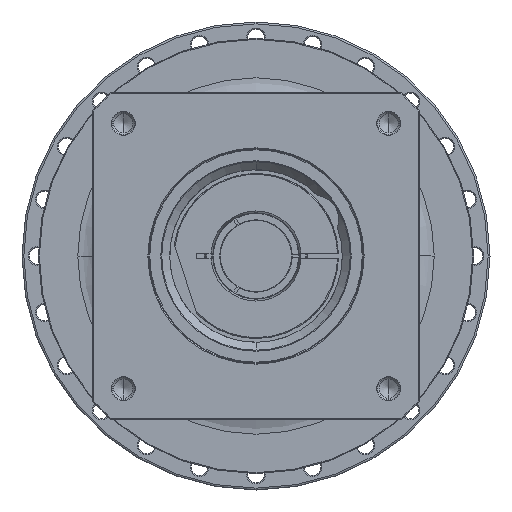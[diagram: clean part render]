
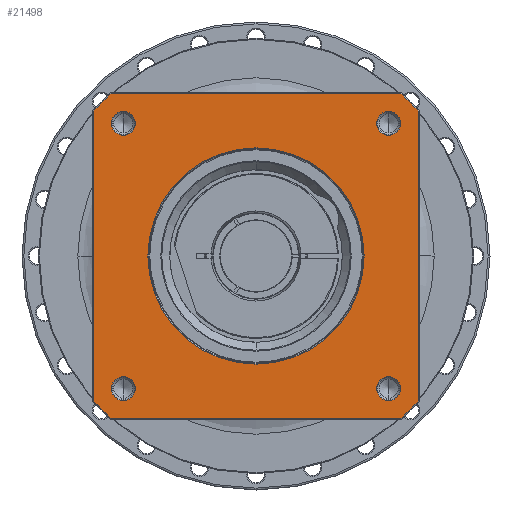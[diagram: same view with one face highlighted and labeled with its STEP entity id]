
A CAD part, left-side view. The second image highlights one B-rep face of the part: STEP entity #21498.
In plain terms, the highlighted planar face has unit normal (-1, 0, 0) as drawn and (0, 0, 1) by its records, which use the part's own axes.
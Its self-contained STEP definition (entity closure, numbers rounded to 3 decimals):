
#20249=CARTESIAN_POINT('',(0.,0.,
76.));
#20250=DIRECTION('',(0.,0.,-1.));
#20251=DIRECTION('',(0.,-1.,0.));
#20252=AXIS2_PLACEMENT_3D('',#20249,#20250,#20251);
#20254=CARTESIAN_POINT('',(0.,0.,
76.));
#20255=DIRECTION('',(0.,0.,-1.));
#20256=DIRECTION('',(0.,1.,0.));
#20257=AXIS2_PLACEMENT_3D('',#20254,#20255,#20256);
#20259=CARTESIAN_POINT('',(0.,0.,76.));
#20260=DIRECTION('',(0.,0.,1.));
#20261=DIRECTION('',(-0.746,-0.666,0.));
#20262=AXIS2_PLACEMENT_3D('',#20259,#20260,#20261);
#20274=DIRECTION('',(1.,0.,0.));
#20275=VECTOR('',#20274,154.58);
#20276=CARTESIAN_POINT('',(-77.29,-86.5,76.));
#20277=LINE('',#20276,#20275);
#20287=CARTESIAN_POINT('',(0.,0.,76.));
#20288=DIRECTION('',(0.,0.,1.));
#20289=DIRECTION('',(0.666,-0.746,0.));
#20290=AXIS2_PLACEMENT_3D('',#20287,#20288,#20289);
#20302=DIRECTION('',(0.,1.,0.));
#20303=VECTOR('',#20302,154.58);
#20304=CARTESIAN_POINT('',(86.5,-77.29,76.));
#20305=LINE('',#20304,#20303);
#20315=CARTESIAN_POINT('',(0.,0.,76.));
#20316=DIRECTION('',(0.,0.,1.));
#20317=DIRECTION('',(0.746,0.666,0.));
#20318=AXIS2_PLACEMENT_3D('',#20315,#20316,#20317);
#20330=DIRECTION('',(-1.,0.,0.));
#20331=VECTOR('',#20330,154.58);
#20332=CARTESIAN_POINT('',(77.29,86.5,76.));
#20333=LINE('',#20332,#20331);
#20338=CARTESIAN_POINT('',(0.,0.,76.));
#20339=DIRECTION('',(0.,0.,1.));
#20340=DIRECTION('',(-0.666,0.746,0.));
#20341=AXIS2_PLACEMENT_3D('',#20338,#20339,#20340);
#20358=DIRECTION('',(0.,-1.,0.));
#20359=VECTOR('',#20358,154.58);
#20360=CARTESIAN_POINT('',(-86.5,77.29,76.));
#20361=LINE('',#20360,#20359);
#20444=CARTESIAN_POINT('',(-70.711,70.711,76.));
#20445=DIRECTION('',(0.,0.,1.));
#20446=DIRECTION('',(-1.,0.,0.));
#20447=AXIS2_PLACEMENT_3D('',#20444,#20445,#20446);
#20462=CARTESIAN_POINT('',(-70.711,70.711,76.));
#20463=DIRECTION('',(0.,0.,1.));
#20464=DIRECTION('',(1.,0.,0.));
#20465=AXIS2_PLACEMENT_3D('',#20462,#20463,#20464);
#20498=CARTESIAN_POINT('',(70.711,70.711,76.));
#20499=DIRECTION('',(0.,0.,1.));
#20500=DIRECTION('',(-1.,0.,0.));
#20501=AXIS2_PLACEMENT_3D('',#20498,#20499,#20500);
#20516=CARTESIAN_POINT('',(70.711,70.711,76.));
#20517=DIRECTION('',(0.,0.,1.));
#20518=DIRECTION('',(1.,0.,0.));
#20519=AXIS2_PLACEMENT_3D('',#20516,#20517,#20518);
#20552=CARTESIAN_POINT('',(70.711,-70.711,76.));
#20553=DIRECTION('',(0.,0.,1.));
#20554=DIRECTION('',(-1.,0.,0.));
#20555=AXIS2_PLACEMENT_3D('',#20552,#20553,#20554);
#20570=CARTESIAN_POINT('',(70.711,-70.711,76.));
#20571=DIRECTION('',(0.,0.,1.));
#20572=DIRECTION('',(1.,0.,0.));
#20573=AXIS2_PLACEMENT_3D('',#20570,#20571,#20572);
#20606=CARTESIAN_POINT('',(-70.711,-70.711,76.));
#20607=DIRECTION('',(0.,0.,1.));
#20608=DIRECTION('',(-1.,0.,0.));
#20609=AXIS2_PLACEMENT_3D('',#20606,#20607,#20608);
#20624=CARTESIAN_POINT('',(-70.711,-70.711,76.));
#20625=DIRECTION('',(0.,0.,1.));
#20626=DIRECTION('',(1.,0.,0.));
#20627=AXIS2_PLACEMENT_3D('',#20624,#20625,#20626);
#20756=CARTESIAN_POINT('',(86.5,-77.29,76.));
#20757=CARTESIAN_POINT('',(86.5,77.29,76.));
#20758=VERTEX_POINT('',#20756);
#20759=VERTEX_POINT('',#20757);
#20764=CARTESIAN_POINT('',(77.29,-86.5,76.));
#20765=VERTEX_POINT('',#20764);
#20768=CARTESIAN_POINT('',(-77.29,-86.5,76.));
#20769=VERTEX_POINT('',#20768);
#20772=CARTESIAN_POINT('',(-86.5,-77.29,76.));
#20773=VERTEX_POINT('',#20772);
#20776=CARTESIAN_POINT('',(-86.5,77.29,76.));
#20777=VERTEX_POINT('',#20776);
#20780=CARTESIAN_POINT('',(-77.29,86.5,76.));
#20781=VERTEX_POINT('',#20780);
#20784=CARTESIAN_POINT('',(77.29,86.5,76.));
#20785=VERTEX_POINT('',#20784);
#20794=CARTESIAN_POINT('',(-77.111,70.711,76.));
#20795=CARTESIAN_POINT('',(-64.311,70.711,76.));
#20796=VERTEX_POINT('',#20794);
#20797=VERTEX_POINT('',#20795);
#20820=CARTESIAN_POINT('',(77.111,70.711,76.));
#20821=CARTESIAN_POINT('',(64.311,70.711,76.));
#20822=VERTEX_POINT('',#20820);
#20823=VERTEX_POINT('',#20821);
#20828=CARTESIAN_POINT('',(77.111,-70.711,76.));
#20829=CARTESIAN_POINT('',(64.311,-70.711,76.));
#20830=VERTEX_POINT('',#20828);
#20831=VERTEX_POINT('',#20829);
#20836=CARTESIAN_POINT('',(-64.311,-70.711,76.));
#20837=CARTESIAN_POINT('',(-77.111,-70.711,76.));
#20838=VERTEX_POINT('',#20836);
#20839=VERTEX_POINT('',#20837);
#20844=CARTESIAN_POINT('',(0.,-57.65,76.));
#20845=CARTESIAN_POINT('',(0.,57.65,
76.));
#20846=VERTEX_POINT('',#20844);
#20847=VERTEX_POINT('',#20845);
#21446=CARTESIAN_POINT('',(0.,0.,76.));
#21447=DIRECTION('',(0.,0.,1.));
#21448=DIRECTION('',(1.,0.,0.));
#21449=AXIS2_PLACEMENT_3D('',#21446,#21447,#21448);
#21450=PLANE('',#21449);
#21452=ORIENTED_EDGE('',*,*,#21451,.F.);
#21454=ORIENTED_EDGE('',*,*,#21453,.F.);
#21456=ORIENTED_EDGE('',*,*,#21455,.F.);
#21458=ORIENTED_EDGE('',*,*,#21457,.F.);
#21460=ORIENTED_EDGE('',*,*,#21459,.F.);
#21462=ORIENTED_EDGE('',*,*,#21461,.F.);
#21464=ORIENTED_EDGE('',*,*,#21463,.F.);
#21466=ORIENTED_EDGE('',*,*,#21465,.F.);
#21467=EDGE_LOOP('',(#21452,#21454,#21456,#21458,#21460,#21462,#21464,#21466));
#21468=FACE_OUTER_BOUND('',#21467,.F.);
#21469=ORIENTED_EDGE('',*,*,#21436,.F.);
#21471=ORIENTED_EDGE('',*,*,#21470,.F.);
#21472=EDGE_LOOP('',(#21469,#21471));
#21473=FACE_BOUND('',#21472,.F.);
#21475=ORIENTED_EDGE('',*,*,#21474,.T.);
#21477=ORIENTED_EDGE('',*,*,#21476,.T.);
#21478=EDGE_LOOP('',(#21475,#21477));
#21479=FACE_BOUND('',#21478,.F.);
#21481=ORIENTED_EDGE('',*,*,#21480,.T.);
#21483=ORIENTED_EDGE('',*,*,#21482,.T.);
#21484=EDGE_LOOP('',(#21481,#21483));
#21485=FACE_BOUND('',#21484,.F.);
#21487=ORIENTED_EDGE('',*,*,#21486,.T.);
#21489=ORIENTED_EDGE('',*,*,#21488,.T.);
#21490=EDGE_LOOP('',(#21487,#21489));
#21491=FACE_BOUND('',#21490,.F.);
#21493=ORIENTED_EDGE('',*,*,#21492,.T.);
#21495=ORIENTED_EDGE('',*,*,#21494,.T.);
#21496=EDGE_LOOP('',(#21493,#21495));
#21497=FACE_BOUND('',#21496,.F.);
#21498=ADVANCED_FACE('',(#21468,#21473,#21479,#21485,#21491,#21497),#21450,.T.);
#20253=CIRCLE('',#20252,57.65);
#20258=CIRCLE('',#20257,57.65);
#20263=CIRCLE('',#20262,116.);
#20291=CIRCLE('',#20290,116.);
#20319=CIRCLE('',#20318,116.);
#20342=CIRCLE('',#20341,116.);
#20448=CIRCLE('',#20447,6.4);
#20466=CIRCLE('',#20465,6.4);
#20502=CIRCLE('',#20501,6.4);
#20520=CIRCLE('',#20519,6.4);
#20556=CIRCLE('',#20555,6.4);
#20574=CIRCLE('',#20573,6.4);
#20610=CIRCLE('',#20609,6.4);
#20628=CIRCLE('',#20627,6.4);
#21436=EDGE_CURVE('',#20846,#20847,#20253,.T.);
#21451=EDGE_CURVE('',#20773,#20769,#20263,.T.);
#21453=EDGE_CURVE('',#20777,#20773,#20361,.T.);
#21455=EDGE_CURVE('',#20781,#20777,#20342,.T.);
#21457=EDGE_CURVE('',#20785,#20781,#20333,.T.);
#21459=EDGE_CURVE('',#20759,#20785,#20319,.T.);
#21461=EDGE_CURVE('',#20758,#20759,#20305,.T.);
#21463=EDGE_CURVE('',#20765,#20758,#20291,.T.);
#21465=EDGE_CURVE('',#20769,#20765,#20277,.T.);
#21470=EDGE_CURVE('',#20847,#20846,#20258,.T.);
#21474=EDGE_CURVE('',#20796,#20797,#20448,.T.);
#21476=EDGE_CURVE('',#20797,#20796,#20466,.T.);
#21480=EDGE_CURVE('',#20823,#20822,#20502,.T.);
#21482=EDGE_CURVE('',#20822,#20823,#20520,.T.);
#21486=EDGE_CURVE('',#20831,#20830,#20556,.T.);
#21488=EDGE_CURVE('',#20830,#20831,#20574,.T.);
#21492=EDGE_CURVE('',#20839,#20838,#20610,.T.);
#21494=EDGE_CURVE('',#20838,#20839,#20628,.T.);
